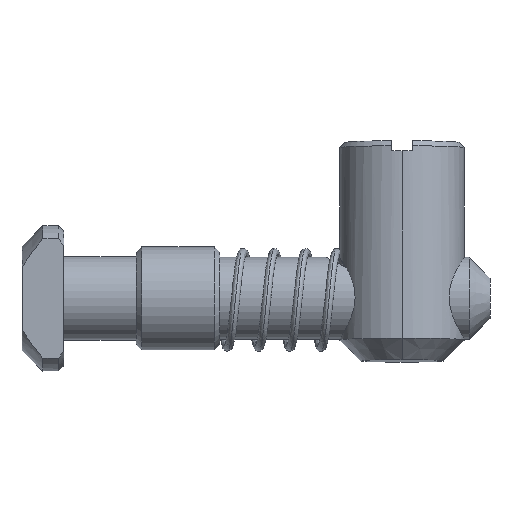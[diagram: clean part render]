
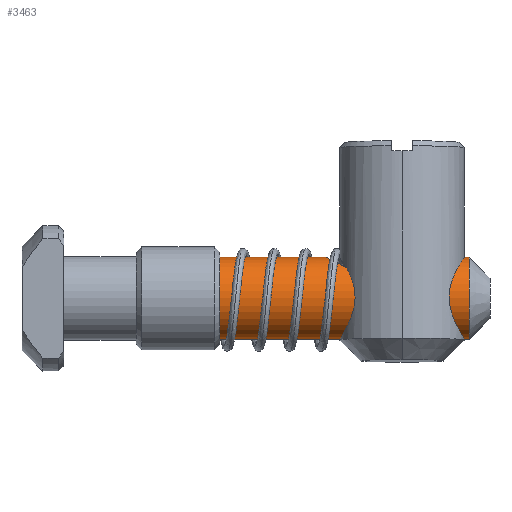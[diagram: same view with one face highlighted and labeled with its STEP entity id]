
A CAD part, left-side view. The second image highlights one B-rep face of the part: STEP entity #3463.
In plain terms, the highlighted cylindrical face has radius 3.95 mm (diameter 7.9 mm), a partial arc.
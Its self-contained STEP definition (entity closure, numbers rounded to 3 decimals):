
#89 = CARTESIAN_POINT ( 'NONE',  ( -11.391, 0.707, 16.941 ) ) ;
#100 = CARTESIAN_POINT ( 'NONE',  ( -8.779, -1.56, 18.056 ) ) ;
#122 = EDGE_CURVE ( 'NONE', #2301, #1953, #258, .T. ) ;
#204 = AXIS2_PLACEMENT_3D ( 'NONE', #667, #384, #3072 ) ;
#258 = CIRCLE ( 'NONE', #2220, 3.95 ) ;
#328 = CARTESIAN_POINT ( 'NONE',  ( -8.639, 37.59, 10.156 ) ) ;
#337 = CARTESIAN_POINT ( 'NONE',  ( -11.886, 3.109, 16.353 ) ) ;
#354 = CARTESIAN_POINT ( 'NONE',  ( -11.037, 0.004, 17.248 ) ) ;
#384 = DIRECTION ( 'NONE',  ( 0., 1., 0. ) ) ;
#385 = DIRECTION ( 'NONE',  ( 0., 1., 0. ) ) ;
#479 = CARTESIAN_POINT ( 'NONE',  ( -8.639, 37.59, 18.056 ) ) ;
#484 = EDGE_CURVE ( 'NONE', #1888, #1953, #3336, .T. ) ;
#513 = EDGE_CURVE ( 'NONE', #892, #2530, #2620, .T. ) ;
#521 = CARTESIAN_POINT ( 'NONE',  ( -8.639, -5.41, 18.056 ) ) ;
#522 = ORIENTED_EDGE ( 'NONE', *, *, #2478, .F. ) ;
#553 = CARTESIAN_POINT ( 'NONE',  ( -8.639, 18.59, 10.156 ) ) ;
#617 = ORIENTED_EDGE ( 'NONE', *, *, #1538, .T. ) ;
#632 = CARTESIAN_POINT ( 'NONE',  ( -11.871, 2.823, 16.376 ) ) ;
#644 = CARTESIAN_POINT ( 'NONE',  ( -10.566, -0.631, 17.559 ) ) ;
#667 = CARTESIAN_POINT ( 'NONE',  ( -8.639, 37.59, 14.106 ) ) ;
#672 = EDGE_CURVE ( 'NONE', #2001, #2486, #827, .T. ) ;
#699 = VECTOR ( 'NONE', #2977, 1000. ) ;
#799 = CARTESIAN_POINT ( 'NONE',  ( -8.639, -1.56, 18.056 ) ) ;
#827 = B_SPLINE_CURVE_WITH_KNOTS ( 'NONE', 3,
 ( #2780, #337, #632, #3044, #1460, #3305, #1723, #89, #1995, #354, #2262, #644, #2516, #928, #2794, #1188, #3057, #1468, #3320, #1732, #100, #2006 ),
 .UNSPECIFIED., .F., .F.,
 ( 4, 2, 2, 2, 2, 2, 2, 2, 2, 2, 4 ),
 ( 0.022, 0.023, 0.024, 0.025, 0.026, 0.026, 0.027, 0.028, 0.028, 0.029, 0.029 ),
 .UNSPECIFIED. ) ;
#892 = VERTEX_POINT ( 'NONE', #1473 ) ;
#928 = CARTESIAN_POINT ( 'NONE',  ( -10.064, -1.075, 17.791 ) ) ;
#1023 = ORIENTED_EDGE ( 'NONE', *, *, #484, .T. ) ;
#1092 = DIRECTION ( 'NONE',  ( 0., 1., 0. ) ) ;
#1125 = CARTESIAN_POINT ( 'NONE',  ( -8.639, 8.34, 18.056 ) ) ;
#1154 = DIRECTION ( 'NONE',  ( 0., 1., 0. ) ) ;
#1188 = CARTESIAN_POINT ( 'NONE',  ( -9.718, -1.29, 17.907 ) ) ;
#1236 = LINE ( 'NONE', #328, #2499 ) ;
#1291 = VECTOR ( 'NONE', #1092, 1000. ) ;
#1408 = EDGE_CURVE ( 'NONE', #1888, #2001, #3202, .T. ) ;
#1409 = ORIENTED_EDGE ( 'NONE', *, *, #672, .F. ) ;
#1460 = CARTESIAN_POINT ( 'NONE',  ( -11.767, 1.999, 16.519 ) ) ;
#1468 = CARTESIAN_POINT ( 'NONE',  ( -9.334, -1.453, 17.996 ) ) ;
#1473 = CARTESIAN_POINT ( 'NONE',  ( -8.639, -5.41, 10.156 ) ) ;
#1538 = EDGE_CURVE ( 'NONE', #2530, #2486, #2761, .T. ) ;
#1591 = FACE_OUTER_BOUND ( 'NONE', #2254, .T. ) ;
#1723 = CARTESIAN_POINT ( 'NONE',  ( -11.572, 1.206, 16.754 ) ) ;
#1732 = CARTESIAN_POINT ( 'NONE',  ( -8.922, -1.546, 18.048 ) ) ;
#1753 = CARTESIAN_POINT ( 'NONE',  ( -11.886, 3.39, 16.353 ) ) ;
#1786 = CARTESIAN_POINT ( 'NONE',  ( -8.639, 18.59, 14.106 ) ) ;
#1802 = DIRECTION ( 'NONE',  ( 0., 1., 0. ) ) ;
#1825 = DIRECTION ( 'NONE',  ( 0., 0., 1. ) ) ;
#1881 = ORIENTED_EDGE ( 'NONE', *, *, #1408, .F. ) ;
#1888 = VERTEX_POINT ( 'NONE', #3063 ) ;
#1953 = VERTEX_POINT ( 'NONE', #2797 ) ;
#1995 = CARTESIAN_POINT ( 'NONE',  ( -11.285, 0.467, 17.042 ) ) ;
#2001 = VERTEX_POINT ( 'NONE', #1753 ) ;
#2006 = CARTESIAN_POINT ( 'NONE',  ( -8.639, -1.56, 18.056 ) ) ;
#2220 = AXIS2_PLACEMENT_3D ( 'NONE', #1786, #1802, #1825 ) ;
#2227 = CARTESIAN_POINT ( 'NONE',  ( -8.639, 37.59, 18.056 ) ) ;
#2229 = CYLINDRICAL_SURFACE ( 'NONE', #204, 3.95 ) ;
#2254 = EDGE_LOOP ( 'NONE', ( #522, #2924, #617, #1409, #1881, #1023, #3315 ) ) ;
#2262 = CARTESIAN_POINT ( 'NONE',  ( -10.893, -0.219, 17.354 ) ) ;
#2301 = VERTEX_POINT ( 'NONE', #553 ) ;
#2478 = EDGE_CURVE ( 'NONE', #892, #2301, #1236, .T. ) ;
#2486 = VERTEX_POINT ( 'NONE', #799 ) ;
#2499 = VECTOR ( 'NONE', #385, 1000. ) ;
#2516 = CARTESIAN_POINT ( 'NONE',  ( -10.38, -0.824, 17.658 ) ) ;
#2530 = VERTEX_POINT ( 'NONE', #521 ) ;
#2547 = AXIS2_PLACEMENT_3D ( 'NONE', #2756, #1154, #3018 ) ;
#2575 = CARTESIAN_POINT ( 'NONE',  ( -8.921, 8.34, 18.056 ) ) ;
#2588 = CARTESIAN_POINT ( 'NONE',  ( -9.205, 8.283, 18.024 ) ) ;
#2601 = CARTESIAN_POINT ( 'NONE',  ( -9.595, 8.131, 17.94 ) ) ;
#2612 = CARTESIAN_POINT ( 'NONE',  ( -9.72, 8.069, 17.906 ) ) ;
#2620 = CIRCLE ( 'NONE', #2547, 3.95 ) ;
#2623 = CARTESIAN_POINT ( 'NONE',  ( -9.956, 7.931, 17.831 ) ) ;
#2631 = CARTESIAN_POINT ( 'NONE',  ( -10.067, 7.853, 17.79 ) ) ;
#2642 = CARTESIAN_POINT ( 'NONE',  ( -10.382, 7.603, 17.657 ) ) ;
#2651 = CARTESIAN_POINT ( 'NONE',  ( -10.569, 7.408, 17.557 ) ) ;
#2667 = CARTESIAN_POINT ( 'NONE',  ( -10.895, 6.997, 17.353 ) ) ;
#2678 = CARTESIAN_POINT ( 'NONE',  ( -11.037, 6.777, 17.248 ) ) ;
#2724 = CARTESIAN_POINT ( 'NONE',  ( -11.286, 6.312, 17.041 ) ) ;
#2756 = CARTESIAN_POINT ( 'NONE',  ( -8.639, -5.41, 14.106 ) ) ;
#2761 = LINE ( 'NONE', #479, #699 ) ;
#2780 = CARTESIAN_POINT ( 'NONE',  ( -11.886, 3.39, 16.353 ) ) ;
#2794 = CARTESIAN_POINT ( 'NONE',  ( -9.953, -1.152, 17.832 ) ) ;
#2797 = CARTESIAN_POINT ( 'NONE',  ( -8.639, 18.59, 18.056 ) ) ;
#2860 = CARTESIAN_POINT ( 'NONE',  ( -11.393, 6.069, 16.94 ) ) ;
#2870 = CARTESIAN_POINT ( 'NONE',  ( -11.573, 5.57, 16.753 ) ) ;
#2884 = CARTESIAN_POINT ( 'NONE',  ( -11.647, 5.314, 16.667 ) ) ;
#2894 = CARTESIAN_POINT ( 'NONE',  ( -11.766, 4.784, 16.52 ) ) ;
#2902 = CARTESIAN_POINT ( 'NONE',  ( -11.812, 4.507, 16.458 ) ) ;
#2924 = ORIENTED_EDGE ( 'NONE', *, *, #513, .T. ) ;
#2964 = CARTESIAN_POINT ( 'NONE',  ( -11.872, 3.952, 16.375 ) ) ;
#2977 = DIRECTION ( 'NONE',  ( 0., 1., 0. ) ) ;
#3018 = DIRECTION ( 'NONE',  ( 0., 0., 1. ) ) ;
#3044 = CARTESIAN_POINT ( 'NONE',  ( -11.811, 2.27, 16.459 ) ) ;
#3057 = CARTESIAN_POINT ( 'NONE',  ( -9.593, -1.352, 17.941 ) ) ;
#3063 = CARTESIAN_POINT ( 'NONE',  ( -8.639, 8.34, 18.056 ) ) ;
#3072 = DIRECTION ( 'NONE',  ( 0., 0., 1. ) ) ;
#3120 = CARTESIAN_POINT ( 'NONE',  ( -11.886, 3.672, 16.353 ) ) ;
#3133 = CARTESIAN_POINT ( 'NONE',  ( -11.886, 3.39, 16.353 ) ) ;
#3202 = B_SPLINE_CURVE_WITH_KNOTS ( 'NONE', 3,
 ( #1125, #2575, #2588, #2601, #2612, #2623, #2631, #2642, #2651, #2667, #2678, #2724, #2860, #2870, #2884, #2894, #2902, #2964, #3120, #3133 ),
 .UNSPECIFIED., .F., .F.,
 ( 4, 2, 2, 2, 2, 2, 2, 2, 2, 4 ),
 ( 0.015, 0.016, 0.017, 0.017, 0.018, 0.019, 0.02, 0.021, 0.021, 0.022 ),
 .UNSPECIFIED. ) ;
#3305 = CARTESIAN_POINT ( 'NONE',  ( -11.647, 1.467, 16.667 ) ) ;
#3315 = ORIENTED_EDGE ( 'NONE', *, *, #122, .F. ) ;
#3320 = CARTESIAN_POINT ( 'NONE',  ( -9.2, -1.492, 18.018 ) ) ;
#3336 = LINE ( 'NONE', #2227, #1291 ) ;
#3463 = ADVANCED_FACE ( 'NONE', ( #1591 ), #2229, .T. ) ;
